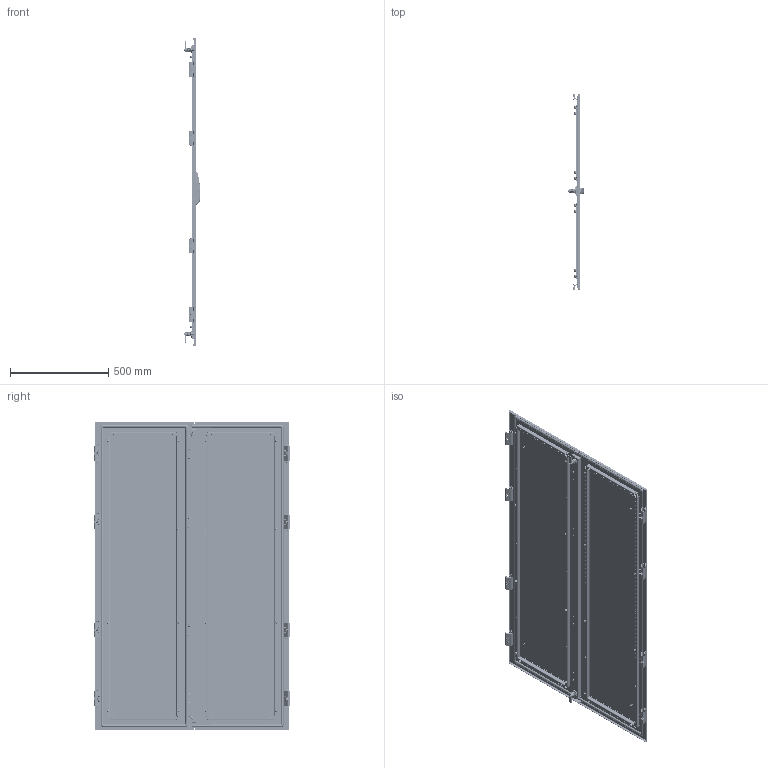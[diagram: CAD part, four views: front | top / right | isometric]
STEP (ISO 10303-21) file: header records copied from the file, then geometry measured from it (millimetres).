
FILE_DESCRIPTION(('STEP AP203'), '1');
FILE_NAME('3409 Äâóñòâîð÷àòàÿ äâåðü ÑÁ', '', ('UNSPECIFIED'), ('UNSPECIFIED'), 'C3D Converter', 'C3D Toolkit', '');
FILE_SCHEMA(('CONFIG_CONTROL_DESIGN'));
Length unit declared in the file: millimetre
Products named in the file (34): 3409.160.100 СБ; 3415; 3425; 3426; 3422.01; 3412; 3411; 2952; 3009.05; 3009.05.01; 3622.01; 3417; 3427; 3010
Assembly tree (181 placements, depth 5):
  3409.160.100 СБ
    3415
      3425
        3426
        3422.01  x4
        (unnamed)  x12
        (unnamed)  x8
        (unnamed)  x2
      3412  x2
      3411  x2
      (unnamed)  x4
      (unnamed)  x12
      (unnamed)  x20
      (unnamed)  x8
      2952
        (unnamed)
          (unnamed)
          (unnamed)
          (unnamed)
          (unnamed)
          (unnamed)
      (unnamed)  x2
      3009.05  x4
        3009.05.01
        (unnamed)
        (unnamed)
      3622.01  x4
      (unnamed)  x4
    3417
      3427
        3426
        3422.01  x4
        (unnamed)  x12
        (unnamed)  x2
      3412  x2
      3411  x2
      (unnamed)  x4
      (unnamed)  x12
      (unnamed)  x12
      3009.05  x4
        3009.05.01
        (unnamed)
        (unnamed)
      3622.01  x4
      (unnamed)  x4
      3010  x4
      (unnamed)  x8
      (unnamed)  x2
Bounding box: 78.3 x 996.61 x 1571 mm (x, y, z)
Volume: 4329962.4 mm3; surface area: 5190555.3 mm2
Topology: 200 solids, 200 shells, 7997 faces, 20809 edges, 13378 vertices
Faces by surface type: plane 4580, cylinder 1890, cone 738, bspline 539, torus 139, extrusion 90, sphere 21
Full cylindrical faces by diameter (mm): 0.5 x32, 2.6 x8, 3.71 x8, 4.134 x8, 4.3 x2, 4.5 x244, 4.8 x2, 4.917 x32, 5 x28, 5.2 x1, 5.8 x8, 6 x60, 6.1 x8, 6.4 x8, 6.6 x32, 6.75 x32, 6.8 x8, 7 x8, 7.3 x32, 7.5 x32, 8 x36, 8.3 x16, 8.5 x1, 9.2 x18, 10 x35, 10.5 x10, 11.5 x8, 12 x40, 12.2 x4, 13 x1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
Entity records: 261560 total; most frequent: CARTESIAN_POINT 188879, ORIENTED_EDGE 12174, DIRECTION 9981, EDGE_CURVE 6087, VERTEX_POINT 4043, AXIS2_PLACEMENT_3D 3447, VECTOR 3087, LINE 3042
